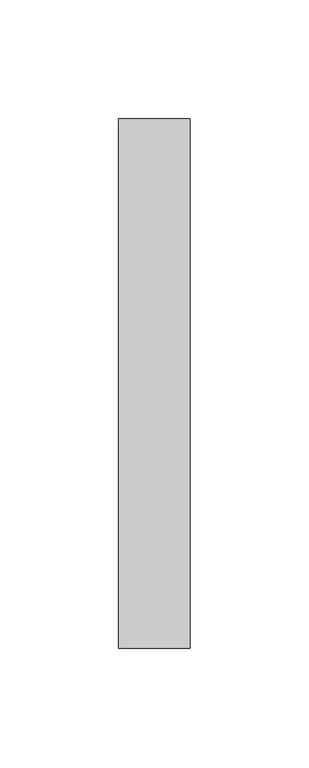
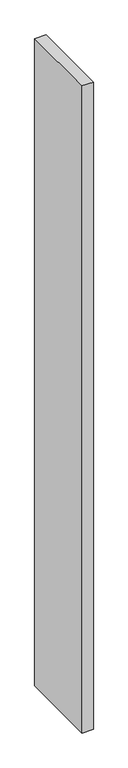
"""IFC4 building model written with IfcOpenShell, lengths in millimetres: furniture geometry, Divisoria_Lateral Fechada : Divisoria_Lateral Fechada_130x180."""

from ifc_helpers import new_model, si_unit, frame, origin, place, context, project, spatial, polyline, outline, extrude, source, transform, mapped, element, save


def furniture_369b768e(model_context):
    return source(origin(), model_context, "Body", "SweptSolid", [
        extrude(outline(polyline([(59.7003264, -50.0), (29.7003264, -50.0), (29.7003264, 172.7633514), (59.7003264, 172.7633514), (59.7003264, -50.0)])), frame((0.0, 0.0, 50.0), z_axis=(0.0, 0.0, 1.0), x_axis=(1.0, 0.0, 0.0)), (0.0, 0.0, 1.0), 1850.0),
    ])


if __name__ == "__main__":
    model = new_model("IFC4")
    model_context = context("Model", 3, world=origin())
    ifc_project = project(units=[si_unit("LENGTHUNIT", "METRE", prefix="MILLI")], contexts=[model_context])
    site = spatial("IfcSite", under=ifc_project)
    building = spatial("IfcBuilding", under=site)
    placement = place(None, origin())
    furniture_shape = furniture_369b768e(model_context)
    element("IfcFurniture", 1, ObjectType="Divisoria_Lateral Fechada : Divisoria_Lateral Fechada_130x180", at=placement, inside=building, context=model_context, shape_type="MappedRepresentation", body=[
        mapped(furniture_shape, transform((0.0, 0.0, 0.0), x_axis=(1.0, 0.0, 0.0), y_axis=(0.0, 1.0, 0.0), z_axis=(0.0, 0.0, 1.0))),
    ])
    save(model, "model.ifc")
